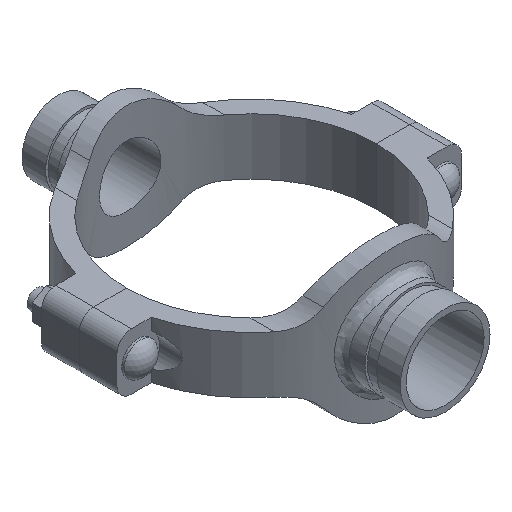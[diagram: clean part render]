
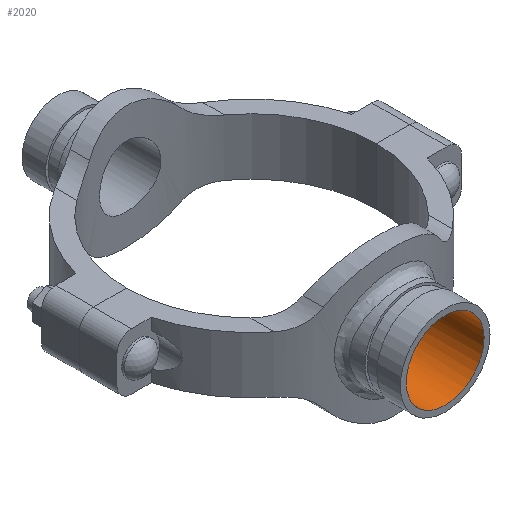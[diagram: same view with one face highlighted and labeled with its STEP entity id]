
A CAD part, isometric view. The second image highlights one B-rep face of the part: STEP entity #2020.
In plain terms, the highlighted cylindrical face has radius 26.194 mm (diameter 52.387 mm), a full revolution.
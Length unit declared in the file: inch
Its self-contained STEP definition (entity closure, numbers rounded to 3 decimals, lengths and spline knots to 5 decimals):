
#52=B_SPLINE_CURVE_WITH_KNOTS('',3,(#4060,#4061,#4062,#4063,#4064,#4065,
#4066,#4067,#4068,#4069,#4070,#4071,#4072,#4073,#4074,#4075,#4076,#4077,
#4078,#4079,#4080,#4081,#4082,#4083,#4084,#4085,#4086,#4087,#4088,#4089,
#4090,#4091,#4092,#4093,#4094,#4095,#4096,#4097,#4098,#4099,#4100,#4101,
#4102,#4103,#4104,#4105,#4106,#4107,#4108,#4109,#4110,#4111,#4112,#4113,
#4114,#4115,#4116,#4117,#4118,#4119,#4120,#4121,#4122,#4123,#4124,#4125),
 .UNSPECIFIED.,.T.,.F.,(4,2,2,2,2,2,2,2,2,2,2,2,2,2,2,2,2,2,2,2,2,2,2,2,
2,2,2,2,2,2,2,2,4),(0.,0.49702,0.99403,1.49105,
1.98806,2.4849,2.98175,3.47859,3.97543,
4.47227,4.96912,5.46596,5.9628,6.45982,
6.95683,7.45385,7.95086,8.44788,8.94489,
9.44191,9.93892,10.43576,10.93261,11.42945,
11.92629,12.42313,12.91998,13.41682,13.91366,
14.41068,14.90769,15.40471,15.90172),
 .UNSPECIFIED.);
#99=CYLINDRICAL_SURFACE('',#2261,1.03125);
#218=FACE_OUTER_BOUND('',#342,.T.);
#342=EDGE_LOOP('',(#1624,#1625,#1626,#1627));
#494=LINE('',#4059,#644);
#644=VECTOR('',#2736,1.03125);
#748=CIRCLE('',#2262,1.03125);
#917=VERTEX_POINT('',#4056);
#918=VERTEX_POINT('',#4058);
#1168=EDGE_CURVE('',#917,#917,#748,.T.);
#1169=EDGE_CURVE('',#917,#918,#494,.T.);
#1170=EDGE_CURVE('',#918,#918,#52,.T.);
#1624=ORIENTED_EDGE('',*,*,#1168,.F.);
#1625=ORIENTED_EDGE('',*,*,#1169,.T.);
#1626=ORIENTED_EDGE('',*,*,#1170,.F.);
#1627=ORIENTED_EDGE('',*,*,#1169,.F.);
#2020=ADVANCED_FACE('',(#218),#99,.F.);
#2261=AXIS2_PLACEMENT_3D('',#4055,#2732,#2733);
#2262=AXIS2_PLACEMENT_3D('',#4057,#2734,#2735);
#2732=DIRECTION('center_axis',(0.,-1.,0.));
#2733=DIRECTION('ref_axis',(-1.,0.,0.));
#2734=DIRECTION('center_axis',(0.,-1.,0.));
#2735=DIRECTION('ref_axis',(-1.,0.,0.));
#2736=DIRECTION('',(0.,-1.,0.));
#4055=CARTESIAN_POINT('Origin',(0.,5.13,0.));
#4056=CARTESIAN_POINT('',(1.03125,5.13,0.));
#4057=CARTESIAN_POINT('Origin',(0.,5.13,0.));
#4058=CARTESIAN_POINT('',(1.03125,3.14788,0.));
#4059=CARTESIAN_POINT('',(1.03125,5.13,0.));
#4060=CARTESIAN_POINT('Ctrl Pts',(1.03125,3.14788,0.));
#4061=CARTESIAN_POINT('Ctrl Pts',(1.03125,3.14788,-0.06523));
#4062=CARTESIAN_POINT('Ctrl Pts',(1.02496,3.14997,-0.13253));
#4063=CARTESIAN_POINT('Ctrl Pts',(0.99865,3.15841,-0.26611));
#4064=CARTESIAN_POINT('Ctrl Pts',(0.97863,3.16476,-0.3324));
#4065=CARTESIAN_POINT('Ctrl Pts',(0.92588,3.18059,-0.45929));
#4066=CARTESIAN_POINT('Ctrl Pts',(0.89311,3.19007,-0.52001));
#4067=CARTESIAN_POINT('Ctrl Pts',(0.81754,3.21027,-0.63219));
#4068=CARTESIAN_POINT('Ctrl Pts',(0.77475,3.22096,-0.68366));
#4069=CARTESIAN_POINT('Ctrl Pts',(0.68367,3.24152,-0.77473));
#4070=CARTESIAN_POINT('Ctrl Pts',(0.63222,3.25211,-0.81753));
#4071=CARTESIAN_POINT('Ctrl Pts',(0.52003,3.27192,-0.8931));
#4072=CARTESIAN_POINT('Ctrl Pts',(0.4593,3.28113,-0.92587));
#4073=CARTESIAN_POINT('Ctrl Pts',(0.33238,3.2964,-0.97863));
#4074=CARTESIAN_POINT('Ctrl Pts',(0.26608,3.30247,-0.99865));
#4075=CARTESIAN_POINT('Ctrl Pts',(0.1325,3.31053,-1.02497));
#4076=CARTESIAN_POINT('Ctrl Pts',(0.0652,3.3125,-1.03125));
#4077=CARTESIAN_POINT('Ctrl Pts',(-0.0652,3.3125,-1.03125));
#4078=CARTESIAN_POINT('Ctrl Pts',(-0.1325,3.31053,-1.02497));
#4079=CARTESIAN_POINT('Ctrl Pts',(-0.26608,3.30247,-0.99865));
#4080=CARTESIAN_POINT('Ctrl Pts',(-0.33238,3.2964,-0.97863));
#4081=CARTESIAN_POINT('Ctrl Pts',(-0.4593,3.28113,-0.92587));
#4082=CARTESIAN_POINT('Ctrl Pts',(-0.52003,3.27192,-0.8931));
#4083=CARTESIAN_POINT('Ctrl Pts',(-0.63222,3.25211,-0.81753));
#4084=CARTESIAN_POINT('Ctrl Pts',(-0.68367,3.24152,-0.77473));
#4085=CARTESIAN_POINT('Ctrl Pts',(-0.77475,3.22096,-0.68366));
#4086=CARTESIAN_POINT('Ctrl Pts',(-0.81754,3.21027,-0.63219));
#4087=CARTESIAN_POINT('Ctrl Pts',(-0.89311,3.19007,-0.52001));
#4088=CARTESIAN_POINT('Ctrl Pts',(-0.92588,3.18059,-0.45929));
#4089=CARTESIAN_POINT('Ctrl Pts',(-0.97863,3.16476,-0.3324));
#4090=CARTESIAN_POINT('Ctrl Pts',(-0.99865,3.15841,-0.26611));
#4091=CARTESIAN_POINT('Ctrl Pts',(-1.02496,3.14997,-0.13253));
#4092=CARTESIAN_POINT('Ctrl Pts',(-1.03125,3.14788,-0.06523));
#4093=CARTESIAN_POINT('Ctrl Pts',(-1.03125,3.14788,0.06523));
#4094=CARTESIAN_POINT('Ctrl Pts',(-1.02496,3.14997,0.13253));
#4095=CARTESIAN_POINT('Ctrl Pts',(-0.99865,3.15841,0.26611));
#4096=CARTESIAN_POINT('Ctrl Pts',(-0.97863,3.16476,0.3324));
#4097=CARTESIAN_POINT('Ctrl Pts',(-0.92588,3.18059,0.45929));
#4098=CARTESIAN_POINT('Ctrl Pts',(-0.89311,3.19007,0.52001));
#4099=CARTESIAN_POINT('Ctrl Pts',(-0.81754,3.21027,0.63219));
#4100=CARTESIAN_POINT('Ctrl Pts',(-0.77475,3.22096,0.68366));
#4101=CARTESIAN_POINT('Ctrl Pts',(-0.68367,3.24152,0.77473));
#4102=CARTESIAN_POINT('Ctrl Pts',(-0.63222,3.25211,0.81753));
#4103=CARTESIAN_POINT('Ctrl Pts',(-0.52003,3.27192,0.8931));
#4104=CARTESIAN_POINT('Ctrl Pts',(-0.4593,3.28113,0.92587));
#4105=CARTESIAN_POINT('Ctrl Pts',(-0.33238,3.2964,0.97863));
#4106=CARTESIAN_POINT('Ctrl Pts',(-0.26608,3.30247,0.99865));
#4107=CARTESIAN_POINT('Ctrl Pts',(-0.1325,3.31053,1.02497));
#4108=CARTESIAN_POINT('Ctrl Pts',(-0.0652,3.3125,1.03125));
#4109=CARTESIAN_POINT('Ctrl Pts',(0.0652,3.3125,1.03125));
#4110=CARTESIAN_POINT('Ctrl Pts',(0.1325,3.31053,1.02497));
#4111=CARTESIAN_POINT('Ctrl Pts',(0.26608,3.30247,0.99865));
#4112=CARTESIAN_POINT('Ctrl Pts',(0.33238,3.2964,0.97863));
#4113=CARTESIAN_POINT('Ctrl Pts',(0.4593,3.28113,0.92587));
#4114=CARTESIAN_POINT('Ctrl Pts',(0.52003,3.27192,0.8931));
#4115=CARTESIAN_POINT('Ctrl Pts',(0.63222,3.25211,0.81753));
#4116=CARTESIAN_POINT('Ctrl Pts',(0.68367,3.24152,0.77473));
#4117=CARTESIAN_POINT('Ctrl Pts',(0.77475,3.22096,0.68366));
#4118=CARTESIAN_POINT('Ctrl Pts',(0.81754,3.21027,0.63219));
#4119=CARTESIAN_POINT('Ctrl Pts',(0.89311,3.19007,0.52001));
#4120=CARTESIAN_POINT('Ctrl Pts',(0.92588,3.18059,0.45929));
#4121=CARTESIAN_POINT('Ctrl Pts',(0.97863,3.16476,0.3324));
#4122=CARTESIAN_POINT('Ctrl Pts',(0.99865,3.15841,0.26611));
#4123=CARTESIAN_POINT('Ctrl Pts',(1.02496,3.14997,0.13253));
#4124=CARTESIAN_POINT('Ctrl Pts',(1.03125,3.14788,0.06523));
#4125=CARTESIAN_POINT('Ctrl Pts',(1.03125,3.14788,0.));
